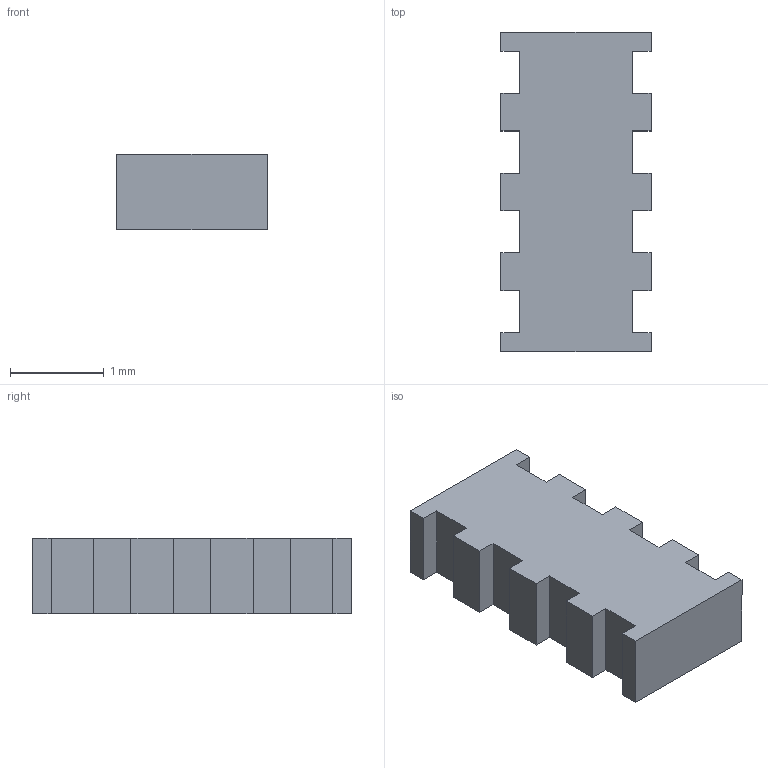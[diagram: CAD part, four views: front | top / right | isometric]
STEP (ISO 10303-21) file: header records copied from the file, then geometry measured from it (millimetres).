
FILE_DESCRIPTION(/* description */ ('STEP AP242 Edition 2','CAx-IF Rec.Pracs.---Representation and Presentation of Product Manufacturing Information (PMI)---4.0---2014-10-13','CAx-IF Rec.Pracs.---3D Tessellated Geometry---0.4---2014-09-14','2;1','CAx-IF Rec.Pracs.---User Defined Attributes---1.5---2016-08-15'),/* implementation_level */ '2;1');
FILE_NAME(/* name */ 'Drone Layout - Surface 246',/* time_stamp */ '2026-10-04T22:22:53Z',/* author */ (''),/* organization */ (''),/* preprocessor_version */ 'ST-DEVELOPER v20',/* originating_system */ 'ONSHAPE BY PTC INC, 1.221',/* authorisation */ ' ');
FILE_SCHEMA (('AP242_MANAGED_MODEL_BASED_3D_ENGINEERING_MIM_LF { 1 0 10303 442 3 1 4 }'));
Length unit declared in the file: metre
Products named in the file (1): respack:1__body_1
Bounding box: 1.6 x 3.4 x 0.8 mm (x, y, z)
Volume: 3.8 mm3; surface area: 20 mm2
Topology: 1 solids, 1 shells, 38 faces, 108 edges, 72 vertices
Faces by surface type: plane 38
Entity records: 1225 total; most frequent: CARTESIAN_POINT 219, ORIENTED_EDGE 216, DIRECTION 186, EDGE_CURVE 108, LINE 108, VECTOR 108, VERTEX_POINT 72, AXIS2_PLACEMENT_3D 39
